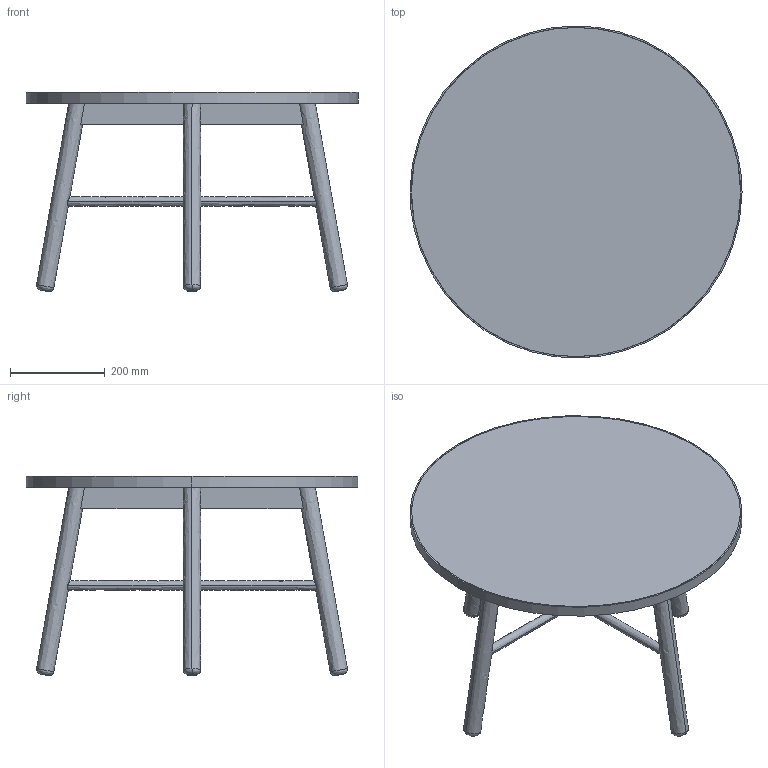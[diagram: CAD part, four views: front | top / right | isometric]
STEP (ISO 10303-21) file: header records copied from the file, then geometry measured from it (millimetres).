
FILE_DESCRIPTION(/* description */ (''),/* implementation_level */ '2;1');
FILE_NAME(/* name */ 'KBAF50~F',/* time_stamp */ '2020-06-18T17:13:31+09:00',/* author */ (''),/* organization */ (''),/* preprocessor_version */ 'ST-DEVELOPER v15',/* originating_system */ '',/* authorisation */ '');
FILE_SCHEMA (('AUTOMOTIVE_DESIGN'));
Length unit declared in the file: millimetre
Products named in the file (1): Document
Bounding box: 700 x 699.96 x 420 mm (x, y, z)
Volume: 11832182 mm3; surface area: 1308897.2 mm2
Topology: 9 solids, 9 shells, 74 faces, 154 edges, 98 vertices
Faces by surface type: bspline 46, plane 28
Entity records: 3227 total; most frequent: CARTESIAN_POINT 2234, ORIENTED_EDGE 308, EDGE_CURVE 154, VERTEX_POINT 98, B_SPLINE_CURVE_WITH_KNOTS 80, EDGE_LOOP 76, ADVANCED_FACE 74, FACE_OUTER_BOUND 74
